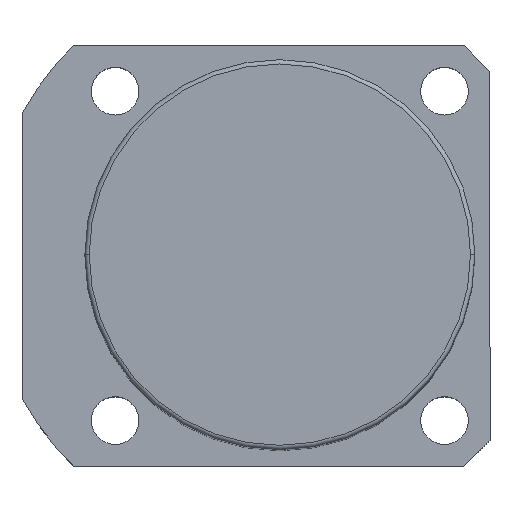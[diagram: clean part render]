
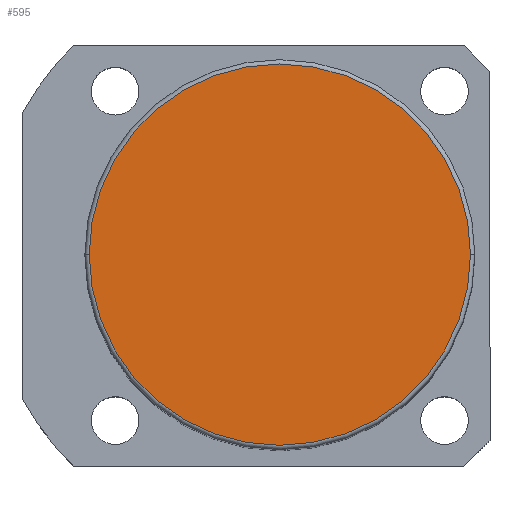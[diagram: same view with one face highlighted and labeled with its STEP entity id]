
A CAD part, top view. The second image highlights one B-rep face of the part: STEP entity #595.
In plain terms, the highlighted planar face has unit normal (0, 0, 1).
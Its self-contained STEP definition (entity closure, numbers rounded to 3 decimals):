
#24 = ORIENTED_EDGE ( 'NONE', *, *, #2207, .T. ) ;
#44 = VERTEX_POINT ( 'NONE', #1663 ) ;
#180 = VERTEX_POINT ( 'NONE', #1867 ) ;
#350 = CARTESIAN_POINT ( 'NONE',  ( 0., 0., 176.5 ) ) ;
#409 = CARTESIAN_POINT ( 'NONE',  ( 0., 0., 176.5 ) ) ;
#595 = ADVANCED_FACE ( 'NONE', ( #2085 ), #1066, .T. ) ;
#693 = DIRECTION ( 'NONE',  ( 0., 0., 1. ) ) ;
#703 = CARTESIAN_POINT ( 'NONE',  ( 0., 0., 176.5 ) ) ;
#708 = AXIS2_PLACEMENT_3D ( 'NONE', #350, #693, #1033 ) ;
#790 = AXIS2_PLACEMENT_3D ( 'NONE', #409, #2089, #1268 ) ;
#884 = DIRECTION ( 'NONE',  ( 0., 0., 1. ) ) ;
#952 = EDGE_CURVE ( 'NONE', #44, #180, #1610, .T. ) ;
#1033 = DIRECTION ( 'NONE',  ( 1., 0., 0. ) ) ;
#1059 = DIRECTION ( 'NONE',  ( 1., 0., 0. ) ) ;
#1066 = PLANE ( 'NONE',  #790 ) ;
#1156 = EDGE_LOOP ( 'NONE', ( #1477, #24 ) ) ;
#1247 = AXIS2_PLACEMENT_3D ( 'NONE', #703, #884, #1059 ) ;
#1268 = DIRECTION ( 'NONE',  ( 1., 0., 0. ) ) ;
#1477 = ORIENTED_EDGE ( 'NONE', *, *, #952, .T. ) ;
#1610 = CIRCLE ( 'NONE', #708, 44. ) ;
#1663 = CARTESIAN_POINT ( 'NONE',  ( 44., 0., 176.5 ) ) ;
#1666 = CIRCLE ( 'NONE', #1247, 44. ) ;
#1867 = CARTESIAN_POINT ( 'NONE',  ( -44., 0., 176.5 ) ) ;
#2085 = FACE_OUTER_BOUND ( 'NONE', #1156, .T. ) ;
#2089 = DIRECTION ( 'NONE',  ( 0., 0., 1. ) ) ;
#2207 = EDGE_CURVE ( 'NONE', #180, #44, #1666, .T. ) ;
